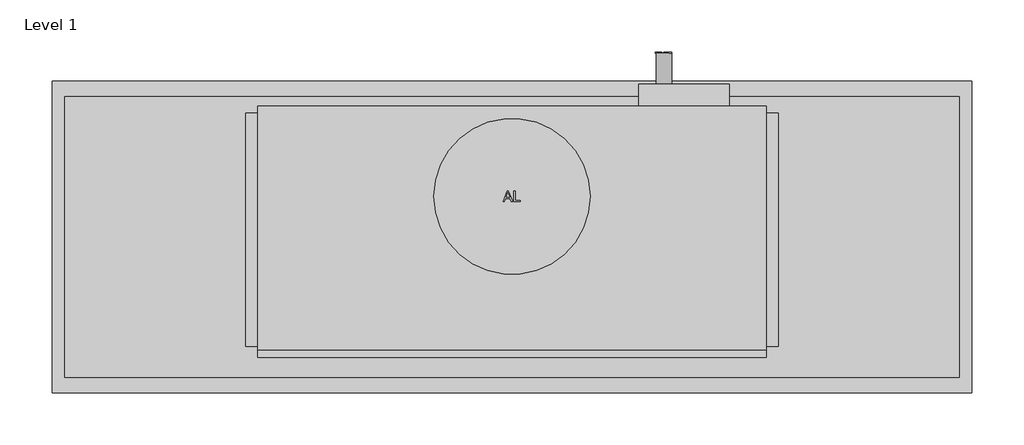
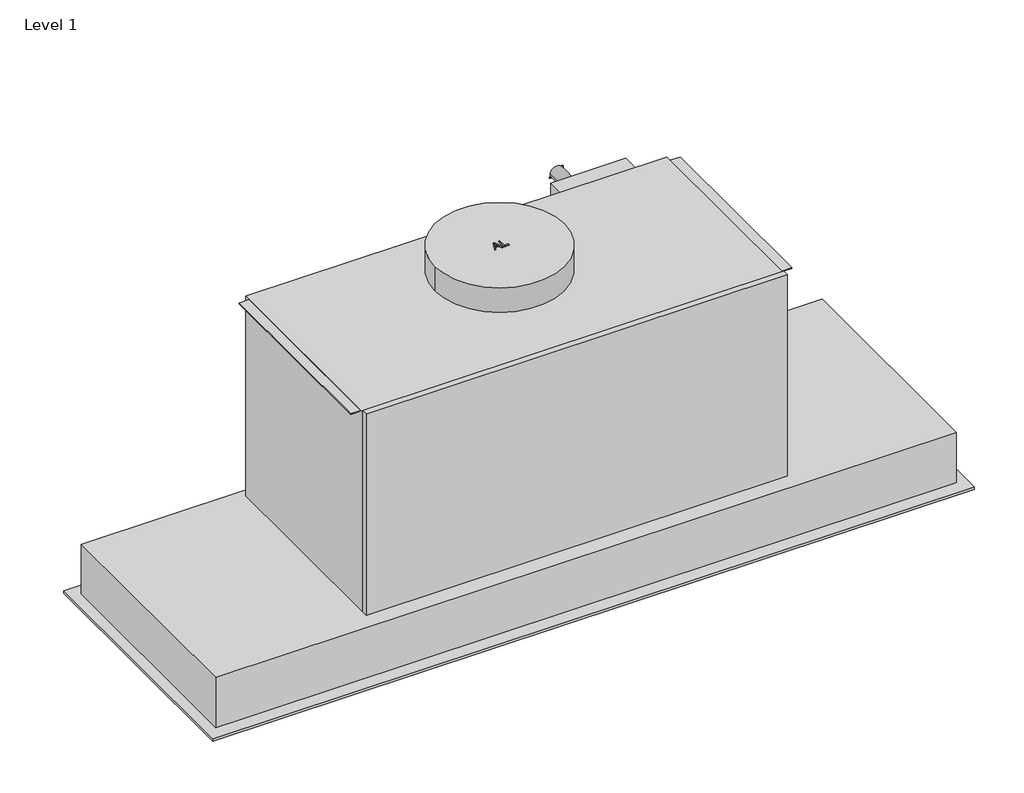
# One storey: 1 proxy.
"""IFC4 building model written with IfcOpenShell, lengths in millimetres."""

from ifc_helpers import new_model, si_unit, origin, place, context, project, spatial, transform, mapped, element, save
from components import specialty_equipment_618ad6a4

model = new_model("IFC4")

# Units and contexts
model_context = context("Model", 3, world=origin())
ifc_project = project(units=[si_unit("LENGTHUNIT", "METRE", prefix="MILLI")], contexts=[model_context])

# Site, building, storey
site = spatial("IfcSite", under=ifc_project)
building = spatial("IfcBuilding", under=site)
storey = spatial("IfcBuildingStorey", under=building, Name="Level 1", Elevation=0.0)

# Proxy
placement = place(None, origin())
specialty_equipment_shape = specialty_equipment_618ad6a4(model_context)
element("IfcBuildingElementProxy", 1, Name="10876810_USA_DA2698_EDST : 28269855_USA_10876810_DA2698_EDST", ObjectType="10876810_USA_DA2698_EDST : 28269855_USA_10876810_DA2698_EDST", at=placement, inside=storey, context=model_context, shape_type="MappedRepresentation", body=[
    mapped(specialty_equipment_shape, transform((0.0, 0.0, 0.0), x_axis=(1.0, 0.0, 0.0), y_axis=(0.0, 1.0, 0.0), z_axis=(0.0, 0.0, 1.0))),
])

save(model, "model.ifc")
